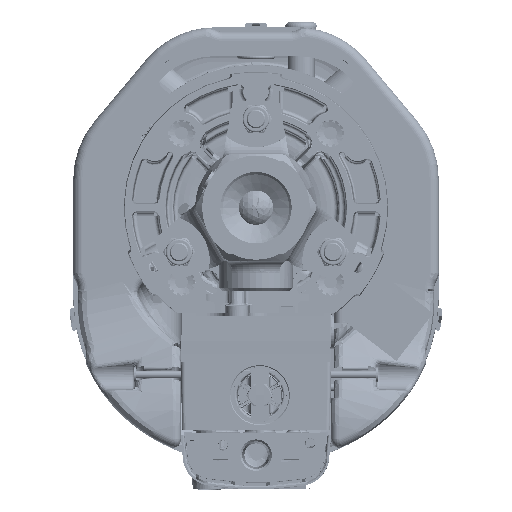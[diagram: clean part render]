
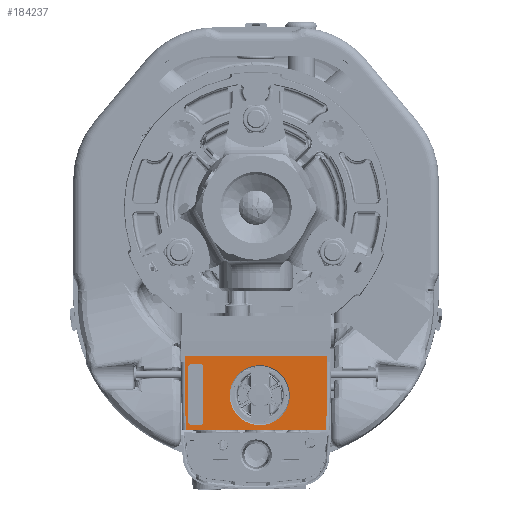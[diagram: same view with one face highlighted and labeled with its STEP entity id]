
A CAD part, front view. The second image highlights one B-rep face of the part: STEP entity #184237.
In plain terms, the highlighted planar face has unit normal (0, -1, 0).
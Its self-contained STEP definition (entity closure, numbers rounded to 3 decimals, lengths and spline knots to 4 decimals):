
#172821=DIRECTION('',(-1.,0.,0.));
#172822=VECTOR('',#172821,4.7435);
#172823=CARTESIAN_POINT('',(2.3718,10.2052,-4.94));
#172824=LINE('',#172823,#172822);
#172825=DIRECTION('',(0.017,0.,-1.));
#172826=VECTOR('',#172825,0.185);
#172827=CARTESIAN_POINT('',(2.3718,10.2052,-4.94));
#172828=LINE('',#172827,#172826);
#172829=DIRECTION('',(0.017,0.,1.));
#172830=VECTOR('',#172829,2.2703);
#172831=CARTESIAN_POINT('',(2.3354,10.2052,-7.395));
#172832=LINE('',#172831,#172830);
#172833=DIRECTION('',(-1.,0.,0.));
#172834=VECTOR('',#172833,4.6707);
#172835=CARTESIAN_POINT('',(2.3354,10.2052,-7.395));
#172836=LINE('',#172835,#172834);
#172837=DIRECTION('',(0.017,0.,-1.));
#172838=VECTOR('',#172837,2.2703);
#172839=CARTESIAN_POINT('',(-2.375,10.2052,-5.125));
#172840=LINE('',#172839,#172838);
#172841=DIRECTION('',(0.017,0.,1.));
#172842=VECTOR('',#172841,0.185);
#172843=CARTESIAN_POINT('',(-2.375,10.2052,-5.125));
#172844=LINE('',#172843,#172842);
#172845=CARTESIAN_POINT('',(0.125,10.2052,-6.232));
#172846=DIRECTION('',(0.,1.,0.));
#172847=DIRECTION('',(0.,0.,-1.));
#172848=AXIS2_PLACEMENT_3D('',#172845,#172846,#172847);
#172850=CARTESIAN_POINT('',(0.125,10.2052,-6.232));
#172851=DIRECTION('',(0.,1.,0.));
#172852=DIRECTION('',(0.,0.,1.));
#172853=AXIS2_PLACEMENT_3D('',#172850,#172851,#172852);
#177213=CARTESIAN_POINT('',(2.3354,10.2052,-7.395));
#177215=CARTESIAN_POINT('',(2.375,10.2052,-5.125));
#177245=CARTESIAN_POINT('',(-2.375,10.2052,-5.125));
#182550=VERTEX_POINT('',#177215);
#182552=VERTEX_POINT('',#177245);
#182947=VERTEX_POINT('',#177213);
#182948=CARTESIAN_POINT('',(-2.3354,10.2052,-7.395));
#182949=VERTEX_POINT('',#182948);
#182981=CARTESIAN_POINT('',(2.3718,10.2052,-4.94));
#182982=CARTESIAN_POINT('',(-2.3718,10.2052,-4.94));
#182983=VERTEX_POINT('',#182981);
#182984=VERTEX_POINT('',#182982);
#183191=CARTESIAN_POINT('',(0.125,10.2052,-7.2305));
#183192=CARTESIAN_POINT('',(0.125,10.2052,-5.2335));
#183193=VERTEX_POINT('',#183191);
#183194=VERTEX_POINT('',#183192);
#184212=CARTESIAN_POINT('',(0.125,10.2052,-6.175));
#184213=DIRECTION('',(0.,-1.,0.));
#184214=DIRECTION('',(-1.,0.,0.));
#184215=AXIS2_PLACEMENT_3D('',#184212,#184213,#184214);
#184216=PLANE('',#184215);
#184218=ORIENTED_EDGE('',*,*,#184217,.F.);
#184220=ORIENTED_EDGE('',*,*,#184219,.T.);
#184222=ORIENTED_EDGE('',*,*,#184221,.F.);
#184224=ORIENTED_EDGE('',*,*,#184223,.T.);
#184226=ORIENTED_EDGE('',*,*,#184225,.F.);
#184228=ORIENTED_EDGE('',*,*,#184227,.T.);
#184229=EDGE_LOOP('',(#184218,#184220,#184222,#184224,#184226,#184228));
#184230=FACE_OUTER_BOUND('',#184229,.F.);
#184232=ORIENTED_EDGE('',*,*,#184231,.F.);
#184234=ORIENTED_EDGE('',*,*,#184233,.F.);
#184235=EDGE_LOOP('',(#184232,#184234));
#184236=FACE_BOUND('',#184235,.F.);
#184237=ADVANCED_FACE('',(#184230,#184236),#184216,.T.);
#172849=CIRCLE('',#172848,0.9985);
#172854=CIRCLE('',#172853,0.9985);
#184217=EDGE_CURVE('',#182983,#182984,#172824,.T.);
#184219=EDGE_CURVE('',#182983,#182550,#172828,.T.);
#184221=EDGE_CURVE('',#182947,#182550,#172832,.T.);
#184223=EDGE_CURVE('',#182947,#182949,#172836,.T.);
#184225=EDGE_CURVE('',#182552,#182949,#172840,.T.);
#184227=EDGE_CURVE('',#182552,#182984,#172844,.T.);
#184231=EDGE_CURVE('',#183193,#183194,#172849,.T.);
#184233=EDGE_CURVE('',#183194,#183193,#172854,.T.);
